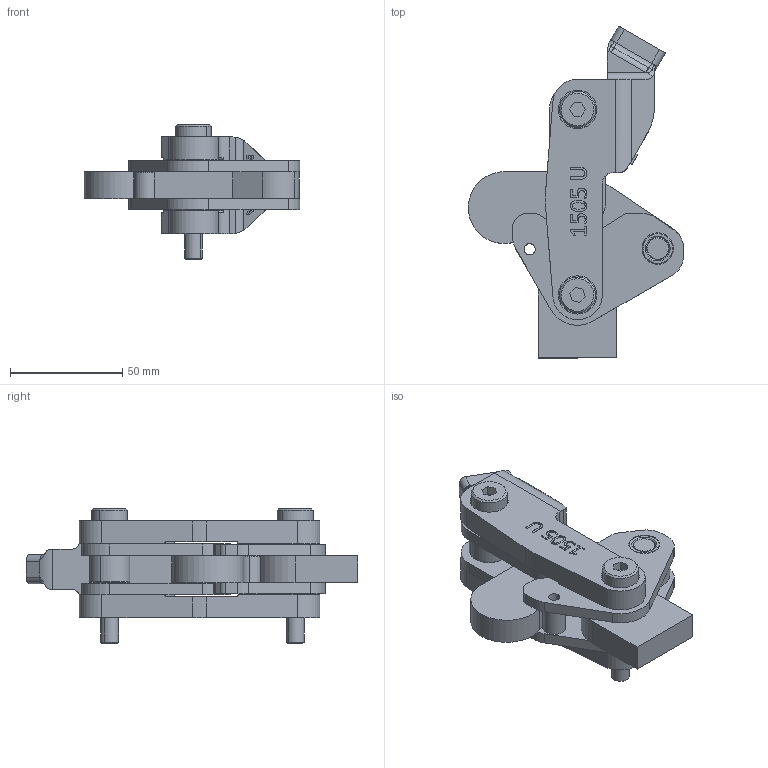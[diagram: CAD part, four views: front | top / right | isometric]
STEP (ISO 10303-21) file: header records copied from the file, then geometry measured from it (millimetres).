
FILE_DESCRIPTION (( 'STEP AP203' ), '1' );
FILE_NAME ('1505_U.STEP', '2022-12-02T07:26:39', ( '' ), ( '' ), 'SwSTEP 2.0', 'SolidWorks 2023', '' );
FILE_SCHEMA (( 'CONFIG_CONTROL_DESIGN' ));
Length unit declared in the file: millimetre
Products named in the file (12): 1535_Cap10x22 Tırtıllı Pim_Varsayılan; 1535_dovme mafsal_Varsayılan; 1535_Burc_14x10x5_Varsayılan; 1535_cap10x18_ara mesafe burcu_Varsayılan; 1505_U_Ana Kaynak_Varsayılan; 1505_U; 1535_Mafsal_5mm_Varsayılan; 1505_U_BaskıKolu_Varsayılan; 1505_U_Gövde_Varsayılan; 1505_MafsalGrubu_Varsayılan; 1535_cap5x12_on paralel burc_Varsayılan; G39x8x10x40_Varsayılan
Assembly tree (23 placements, depth 3):
  1505_U
    1505_U_Ana Kaynak_Varsayılan
    1535_cap10x18_ara mesafe burcu_Varsayılan
    1505_U_Gövde_Varsayılan  x2
    1505_MafsalGrubu_Varsayılan
      1535_dovme mafsal_Varsayılan
      1535_Mafsal_5mm_Varsayılan  x2
      1535_Burc_14x10x5_Varsayılan  x4
      G39x8x10x40_Varsayılan  x2
      1535_cap10x18_ara mesafe burcu_Varsayılan
    1535_Burc_14x10x5_Varsayılan  x4
    1535_Cap10x22 Tırtıllı Pim_Varsayılan  x2
    1505_U_BaskıKolu_Varsayılan
    1535_cap5x12_on paralel burc_Varsayılan
Bounding box: 95.76 x 147.66 x 60 mm (x, y, z)
Volume: 177450.9 mm3; surface area: 68134.2 mm2
Topology: 22 solids, 22 shells, 1402 faces, 3529 edges, 2194 vertices
Faces by surface type: plane 885, cylinder 287, bspline 118, cone 108, torus 4
Entity records: 25090 total; most frequent: CARTESIAN_POINT 9021, ORIENTED_EDGE 3208, DIRECTION 2694, EDGE_CURVE 1604, VERTEX_POINT 1038, VECTOR 940, LINE 940, AXIS2_PLACEMENT_3D 877
